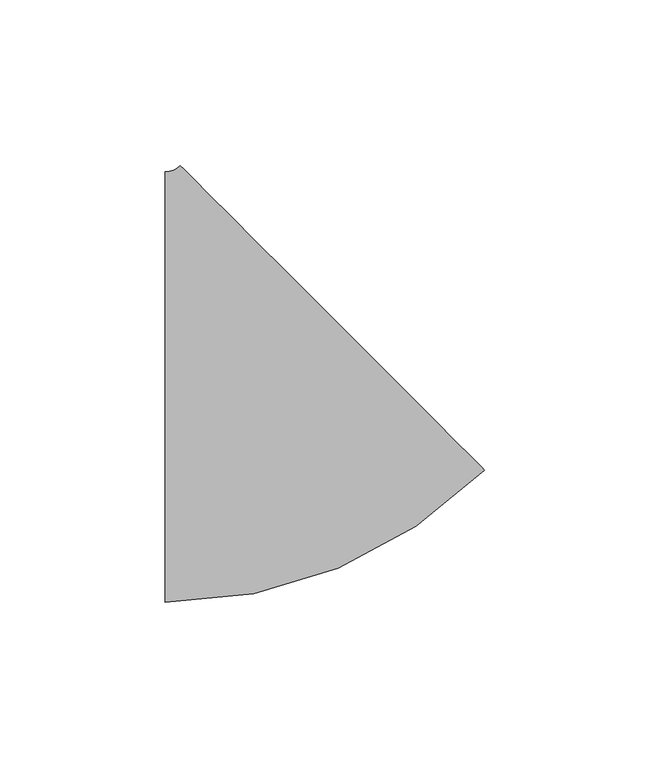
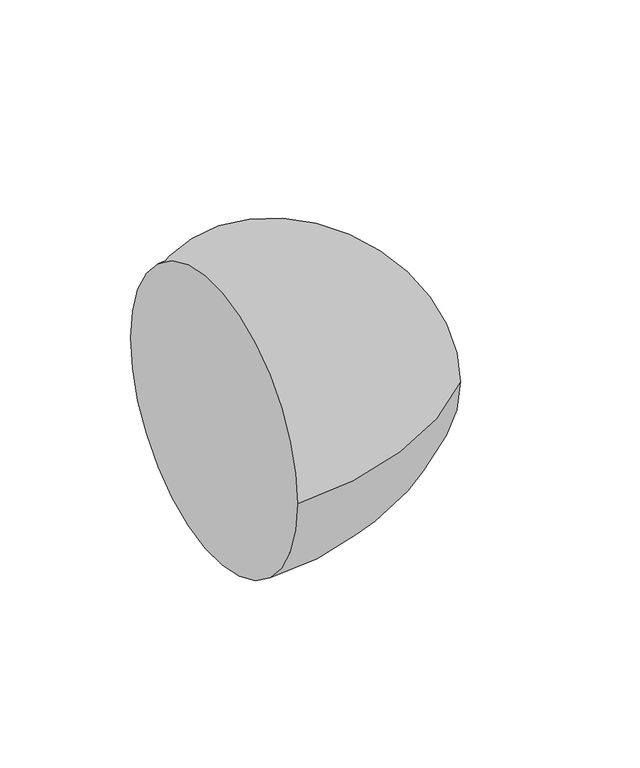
"""IFC4 building model written with IfcOpenShell, lengths in millimetres: pipe fitting geometry, M_Codo - Genérico : Estándar."""

import ifcopenshell
import ifcopenshell.guid

model = None  # the IFC model being written
_history = None  # IfcOwnerHistory: only IFC2X3 demands one
_inside = {}  # id of a spatial element -> (the spatial element, [elements in it])
_under = {}  # id of a project, library or spatial element -> (it, [spatial elements below it])
_declared = {}  # id of a project -> (the project, [libraries it declares])
_typed = {}  # id of a type object -> (the type object, [elements of that type])
_made_of = {}  # id of a material, layer set ... -> (it, [elements and type objects made of it])


def new_model(schema):
    """Start an empty IFC model of exactly this schema.

    Asked for "IFC4X3", IfcOpenShell would pick the latest addendum, in which some entities
    have other attributes; the version numbers below select the first issue.
    IFC2X3 requires an IfcOwnerHistory on every rooted entity: one is made here for all.
    """
    global model, _history
    if schema == "IFC4X3":
        model = ifcopenshell.file(schema_version=(4, 3, 0, 0))
    else:
        model = ifcopenshell.file(schema=schema)
    _inside.clear()
    _under.clear()
    _declared.clear()
    _typed.clear()
    _made_of.clear()
    _history = None
    if model.schema == "IFC2X3":
        org = make("IfcOrganization", Name="unknown")
        user = make(
            "IfcPersonAndOrganization",
            ThePerson=make("IfcPerson", FamilyName="unknown"),
            TheOrganization=org,
        )
        app = make(
            "IfcApplication",
            ApplicationDeveloper=org,
            Version="unknown",
            ApplicationFullName="unknown",
            ApplicationIdentifier="unknown",
        )
        _history = make(
            "IfcOwnerHistory",
            OwningUser=user,
            OwningApplication=app,
            ChangeAction="ADDED",
            CreationDate=0,
        )
    return model


def make(cls, **values):
    """One entity of the class cls with the attributes given. An attribute that is None is left unset."""
    return model.create_entity(
        cls, **{name: value for name, value in values.items() if value is not None}
    )


def rooted(cls, **values):
    """An entity with a GlobalId (a new one), such as an element, a storey or a relation."""
    return make(cls, GlobalId=ifcopenshell.guid.new(), OwnerHistory=_history, **values)


def si_unit(unit_type, name, prefix=None):
    """IfcSIUnit, for example si_unit("LENGTHUNIT", "METRE", prefix="MILLI")."""
    return make("IfcSIUnit", UnitType=unit_type, Prefix=prefix, Name=name)


def assignment(units):
    """IfcUnitAssignment: the units of a project."""
    return None if units is None else make("IfcUnitAssignment", Units=units)


def point(xyz):
    """IfcCartesianPoint."""
    return None if xyz is None else make("IfcCartesianPoint", Coordinates=xyz)


def direction(xyz):
    """IfcDirection."""
    return None if xyz is None else make("IfcDirection", DirectionRatios=xyz)


def frame(location, z_axis=None, x_axis=None):
    """IfcAxis2Placement3D, a coordinate frame: its origin and axes. An axis left out is left unset."""
    return make(
        "IfcAxis2Placement3D",
        Location=point(location),
        Axis=direction(z_axis),
        RefDirection=direction(x_axis),
    )


def origin():
    """The frame at (0, 0, 0) with its axes left unset."""
    return frame((0.0, 0.0, 0.0))


def place(relative_to, where):
    """IfcLocalPlacement: puts the frame where relative to a parent placement (None: the world)."""
    return make(
        "IfcLocalPlacement", PlacementRelTo=relative_to, RelativePlacement=where
    )


def context(
    kind, dimensions, precision=None, world=None, true_north=None, identifier=None
):
    """IfcGeometricRepresentationContext, for example the 3D "Model" context."""
    return make(
        "IfcGeometricRepresentationContext",
        ContextIdentifier=identifier,
        ContextType=kind,
        CoordinateSpaceDimension=dimensions,
        Precision=precision,
        WorldCoordinateSystem=world,
        TrueNorth=true_north,
    )


def project(units=None, contexts=None):
    """IfcProject with its units and contexts."""
    return rooted(
        "IfcProject",
        Name="project",
        RepresentationContexts=contexts,
        UnitsInContext=assignment(units),
    )


def spatial(cls, under=None, at=None, **own):
    """A site, building, storey or space (cls), placed at a placement, below another one or the project."""
    s = rooted(cls, ObjectPlacement=at, **own)
    if under is not None:
        _under.setdefault(under.id(), (under, []))[1].append(s)
    return s


def circle_curve(where, radius):
    """IfcCircle in the frame where."""
    return make("IfcCircle", Position=where, Radius=radius)


def ellipse_curve(where, semi_axis1, semi_axis2):
    """IfcEllipse in the frame where."""
    return make(
        "IfcEllipse", Position=where, SemiAxis1=semi_axis1, SemiAxis2=semi_axis2
    )


def trimmed(basis, trim1, trim2, sense, master):
    """IfcTrimmedCurve: the piece of a basis curve between two trims."""
    return make(
        "IfcTrimmedCurve",
        BasisCurve=basis,
        Trim1=trim1,
        Trim2=trim2,
        SenseAgreement=sense,
        MasterRepresentation=master,
    )


def shape(context_of_items, identifier, shape_type, items):
    """IfcShapeRepresentation: the items that make up one representation, for example the "Body"."""
    return make(
        "IfcShapeRepresentation",
        ContextOfItems=context_of_items,
        RepresentationIdentifier=identifier,
        RepresentationType=shape_type,
        Items=items,
    )


def source(mapping_origin, context_of_items, identifier, shape_type, items):
    """IfcRepresentationMap: a shape defined once, which mapped items show again and again."""
    return make(
        "IfcRepresentationMap",
        MappingOrigin=mapping_origin,
        MappedRepresentation=shape(context_of_items, identifier, shape_type, items),
    )


def transform(
    local_origin,
    x_axis=None,
    y_axis=None,
    z_axis=None,
    scale=None,
    scale2=None,
    scale3=None,
    uniform=True,
):
    """IfcCartesianTransformationOperator3D, or its non-uniform kind. x_axis, y_axis, z_axis: its Axis1, 2, 3."""
    if uniform:
        return make(
            "IfcCartesianTransformationOperator3D",
            Axis1=direction(x_axis),
            Axis2=direction(y_axis),
            LocalOrigin=point(local_origin),
            Scale=scale,
            Axis3=direction(z_axis),
        )
    return make(
        "IfcCartesianTransformationOperator3DnonUniform",
        Axis1=direction(x_axis),
        Axis2=direction(y_axis),
        LocalOrigin=point(local_origin),
        Scale=scale,
        Axis3=direction(z_axis),
        Scale2=scale2,
        Scale3=scale3,
    )


def mapped(mapping_source, mapping_target):
    """IfcMappedItem: shows the shape of a source again, moved by a transform."""
    return make(
        "IfcMappedItem", MappingSource=mapping_source, MappingTarget=mapping_target
    )


def made_of(thing, what):
    """Note that an element or type object is made of a material, layer set ...; save() writes the relation."""
    if what is not None:
        _made_of.setdefault(what.id(), (what, []))[1].append(thing)
    return thing


def element(
    cls,
    number,
    at=None,
    inside=None,
    cuts=None,
    type_object=None,
    material=None,
    context=None,
    identifier="Body",
    shape_type=None,
    held_by="IfcProductDefinitionShape",
    body=None,
    shapes=None,
    **own,
):
    """One element of the class cls, such as IfcWall. Its Tag is "e" and its number.

    at: its placement. inside: the storey or other place that contains it. cuts: it is an
    opening in that element (IfcRelVoidsElement). A single representation is given by context,
    identifier, shape_type and body (its items); several are given by shapes. held_by: the class
    of the entity that holds the representations. save() writes the other relations.
    """
    e = rooted(cls, Tag="e%d" % number, ObjectPlacement=at, **own)
    if body is not None:
        shapes = [shape(context, identifier, shape_type, body)]
    if shapes is not None:
        e.Representation = make(held_by, Representations=shapes)
    if inside is not None:
        _inside.setdefault(inside.id(), (inside, []))[1].append(e)
    if cuts is not None:
        rooted(
            "IfcRelVoidsElement", RelatingBuildingElement=cuts, RelatedOpeningElement=e
        )
    if type_object is not None:
        _typed.setdefault(type_object.id(), (type_object, []))[1].append(e)
    return made_of(e, material)


def aggregate(whole, parts):
    """IfcRelAggregates: a whole, such as a stair, and the parts it consists of."""
    return rooted("IfcRelAggregates", RelatingObject=whole, RelatedObjects=parts)


def save(model, path):
    """Write the relations noted so far, then the file.

    IfcRelAggregates (storeys below a building ...), IfcRelContainedInSpatialStructure (elements
    in a storey), IfcRelDefinesByType, IfcRelAssociatesMaterial and IfcRelDeclares: one each for
    every whole, place, type object, material and project.
    """
    for whole, parts in _under.values():
        aggregate(whole, parts)
    for where, things in _inside.values():
        rooted(
            "IfcRelContainedInSpatialStructure",
            RelatedElements=things,
            RelatingStructure=where,
        )
    for kind, things in _typed.values():
        rooted("IfcRelDefinesByType", RelatedObjects=things, RelatingType=kind)
    for what, things in _made_of.values():
        rooted("IfcRelAssociatesMaterial", RelatedObjects=things, RelatingMaterial=what)
    for by, libraries in _declared.values():
        rooted("IfcRelDeclares", RelatingContext=by, RelatedDefinitions=libraries)
    model.write(path)


def plane_surface(at):
    """IfcPlane: the flat surface through the origin of the frame at, square to its z axis."""
    return make("IfcPlane", Position=at)


def revolved_surface(curve, axis_point, axis_direction):
    """IfcSurfaceOfRevolution: the curve turned about the line through axis_point along axis_direction."""
    return make(
        "IfcSurfaceOfRevolution",
        SweptCurve=make("IfcArbitraryOpenProfileDef", ProfileType="CURVE", Curve=curve),
        AxisPosition=make("IfcAxis1Placement", Location=point(axis_point), Axis=direction(axis_direction)),
    )


def advanced_brep(points, edges, surfaces, faces):
    """IfcAdvancedBrep: a solid bounded by faces that lie on surfaces and meet in shared edges.

    An edge is (start, end): straight between two places in points (the first is 0);
    or (start, end, curve); or (start, end, curve, False) where it runs against its curve.
    A face is (place in surfaces, loops), or (place, loops, False) where it looks against
    its surface's normal. A loop lists edges by number (the first is 1), with a minus sign
    where the edge is run from its end to its start. The first loop is the outer one.
    """
    corners = [point(p) for p in points]
    vertices = [make("IfcVertexPoint", VertexGeometry=c) for c in corners]
    made = []
    for start, end, *more in edges:
        made.append(
            make(
                "IfcEdgeCurve",
                EdgeStart=vertices[start],
                EdgeEnd=vertices[end],
                EdgeGeometry=more[0] if more else make("IfcPolyline", Points=[corners[start], corners[end]]),
                SameSense=more[1] if len(more) > 1 else True,
            )
        )
    hull = []
    for where, loops, *sense in faces:
        bounds = []
        for j, loop in enumerate(loops):
            ring = [make("IfcOrientedEdge", EdgeElement=made[abs(k) - 1], Orientation=k > 0) for k in loop]
            bounds.append(
                make(
                    "IfcFaceOuterBound" if j == 0 else "IfcFaceBound",
                    Bound=make("IfcEdgeLoop", EdgeList=ring),
                    Orientation=True,
                )
            )
        hull.append(make("IfcAdvancedFace", Bounds=bounds, FaceSurface=surfaces[where], SameSense=sense[0] if sense else True))
    return make("IfcAdvancedBrep", Outer=make("IfcClosedShell", CfsFaces=hull))


def pipe_fitting_c30e2c37(model_context):
    return source(origin(), model_context, "Body", "AdvancedBrep", [
        advanced_brep(
        [(-29.5876021, -65.0875, 0.0), (-29.5876021, 65.0875, 0.0), (66.9437394, -25.1066647, 0.0), (-25.0977723, 66.9470737, 0.0)],
        [
            (0, 1, circle_curve(frame((-29.5876021, 0.0, 0.0), z_axis=(-1.0, 0.0, 0.0), x_axis=(0.0, 1.0, 0.0)), 65.0875)),
            (1, 0, circle_curve(frame((-29.5876021, 0.0, 0.0), z_axis=(-1.0, 0.0, 0.0), x_axis=(0.0, 1.0, 0.0)), 65.0875)),
            (2, 3, circle_curve(frame((20.9229836, 20.9202045, 0.0), z_axis=(0.7071537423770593, 0.7070598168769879, 0.0), x_axis=(-0.7070598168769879, 0.7071537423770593, 0.0)), 65.0875)),
            (3, 2, circle_curve(frame((20.9229836, 20.9202045, 0.0), z_axis=(0.7071537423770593, 0.7070598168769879, 0.0), x_axis=(-0.7070598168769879, 0.7071537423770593, 0.0)), 65.0875)),
            (3, 1, circle_curve(frame((-29.5876021, 71.4375, 0.0), z_axis=(0.0, 0.0, -1.0), x_axis=(0.0, -1.0, 0.0)), 6.35)),
            (0, 2, circle_curve(frame((-29.5876021, 71.4375, 0.0), z_axis=(0.0, 0.0, 1.0), x_axis=(0.0, -1.0, 0.0)), 136.525)),
        ],
        [
            plane_surface(frame((-29.5876021, 0.0, 0.0), z_axis=(-1.0, 0.0, 0.0), x_axis=(0.0, 0.0, 1.0))),
            plane_surface(frame((20.9229836, 20.9202045, 0.0), z_axis=(0.7071537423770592, 0.707059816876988, 0.0), x_axis=(0.0, 0.0, 1.0))),
            revolved_surface(trimmed(ellipse_curve(frame((-29.5876021, 0.0, 0.0), z_axis=(-1.0, 0.0, 0.0), x_axis=(0.0, 1.0, 0.0)), 65.0875, 65.0875), [point((-29.5876021, -65.0875, 0.0))], [point((-29.5876021, 65.0875, 0.0))], True, "CARTESIAN"), (-29.5876021, 71.4375, 0.0), (0.0, 0.0, 1.0)),
            revolved_surface(trimmed(ellipse_curve(frame((-29.5876021, 0.0, 0.0), z_axis=(-1.0, 0.0, 0.0), x_axis=(0.0, 1.0, 0.0)), 65.0875, 65.0875), [point((-29.5876021, 65.0875, 0.0))], [point((-29.5876021, -65.0875, 0.0))], True, "CARTESIAN"), (-29.5876021, 71.4375, 0.0), (0.0, 0.0, 1.0)),
        ],
        [
            (0, [[1, 2]]),
            (1, [[3, 4]]),
            (2, [[5, -1, 6, -4]]),
            (3, [[-6, -2, -5, -3]]),
        ],
    ),
    ])


if __name__ == "__main__":
    model = new_model("IFC4")
    model_context = context("Model", 3, world=origin())
    ifc_project = project(units=[si_unit("LENGTHUNIT", "METRE", prefix="MILLI")], contexts=[model_context])
    site = spatial("IfcSite", under=ifc_project)
    building = spatial("IfcBuilding", under=site)
    placement = place(None, origin())
    pipe_fitting_shape = pipe_fitting_c30e2c37(model_context)
    element("IfcPipeFitting", 1, ObjectType="M_Codo - Genérico : Estándar", at=placement, inside=building, context=model_context, shape_type="MappedRepresentation", body=[
        mapped(pipe_fitting_shape, transform((0.0, 0.0, 0.0), x_axis=(1.0, 0.0, 0.0), y_axis=(0.0, 1.0, 0.0), z_axis=(0.0, 0.0, 1.0))),
    ])
    save(model, "model.ifc")
